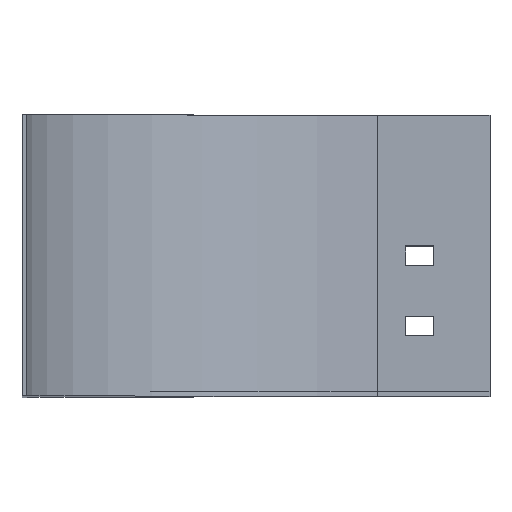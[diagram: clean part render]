
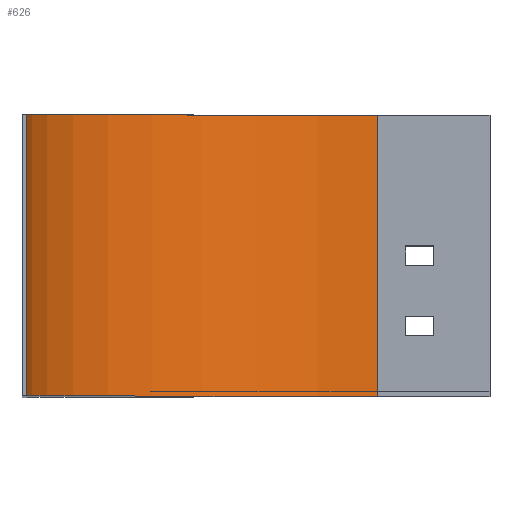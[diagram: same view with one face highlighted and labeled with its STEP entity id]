
A CAD part, top view. The second image highlights one B-rep face of the part: STEP entity #626.
In plain terms, the highlighted cylindrical face has radius 125 mm (diameter 250 mm), a partial arc.
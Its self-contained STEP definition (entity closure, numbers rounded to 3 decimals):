
#38 = LINE ( 'NONE', #882, #1617 ) ;
#76 = VERTEX_POINT ( 'NONE', #1385 ) ;
#164 = CIRCLE ( 'NONE', #1537, 125. ) ;
#260 = DIRECTION ( 'NONE',  ( 0., -1., 0. ) ) ;
#400 = AXIS2_PLACEMENT_3D ( 'NONE', #927, #670, #541 ) ;
#403 = CARTESIAN_POINT ( 'NONE',  ( 0., 100., 0. ) ) ;
#518 = DIRECTION ( 'NONE',  ( 0., -1., 0. ) ) ;
#541 = DIRECTION ( 'NONE',  ( 0., 0., -1. ) ) ;
#558 = CIRCLE ( 'NONE', #1395, 125. ) ;
#612 = VECTOR ( 'NONE', #900, 1000. ) ;
#626 = ADVANCED_FACE ( 'NONE', ( #1432 ), #1183, .F. ) ;
#670 = DIRECTION ( 'NONE',  ( 0., -1., 0. ) ) ;
#711 = EDGE_CURVE ( 'NONE', #76, #969, #38, .T. ) ;
#735 = EDGE_CURVE ( 'NONE', #969, #1391, #164, .T. ) ;
#741 = CARTESIAN_POINT ( 'NONE',  ( -125., 0., 0. ) ) ;
#743 = VERTEX_POINT ( 'NONE', #904 ) ;
#759 = CARTESIAN_POINT ( 'NONE',  ( 0., 0., 0. ) ) ;
#799 = DIRECTION ( 'NONE',  ( 0., -1., 0. ) ) ;
#882 = CARTESIAN_POINT ( 'NONE',  ( -125., 100., 0. ) ) ;
#900 = DIRECTION ( 'NONE',  ( 0., -1., 0. ) ) ;
#904 = CARTESIAN_POINT ( 'NONE',  ( 0., 100., -125. ) ) ;
#927 = CARTESIAN_POINT ( 'NONE',  ( 0., 100., 0. ) ) ;
#969 = VERTEX_POINT ( 'NONE', #741 ) ;
#984 = EDGE_CURVE ( 'NONE', #743, #1391, #1637, .T. ) ;
#1014 = CARTESIAN_POINT ( 'NONE',  ( 0., 100., -125. ) ) ;
#1051 = DIRECTION ( 'NONE',  ( 0., 0., -1. ) ) ;
#1118 = CARTESIAN_POINT ( 'NONE',  ( 0., 0., -125. ) ) ;
#1183 = CYLINDRICAL_SURFACE ( 'NONE', #400, 125. ) ;
#1217 = ORIENTED_EDGE ( 'NONE', *, *, #735, .T. ) ;
#1270 = ORIENTED_EDGE ( 'NONE', *, *, #1462, .F. ) ;
#1276 = ORIENTED_EDGE ( 'NONE', *, *, #711, .T. ) ;
#1350 = ORIENTED_EDGE ( 'NONE', *, *, #984, .F. ) ;
#1385 = CARTESIAN_POINT ( 'NONE',  ( -125., 100., 0. ) ) ;
#1391 = VERTEX_POINT ( 'NONE', #1118 ) ;
#1395 = AXIS2_PLACEMENT_3D ( 'NONE', #403, #799, #1051 ) ;
#1432 = FACE_OUTER_BOUND ( 'NONE', #1543, .T. ) ;
#1462 = EDGE_CURVE ( 'NONE', #76, #743, #558, .T. ) ;
#1537 = AXIS2_PLACEMENT_3D ( 'NONE', #759, #518, #1655 ) ;
#1543 = EDGE_LOOP ( 'NONE', ( #1217, #1350, #1270, #1276 ) ) ;
#1617 = VECTOR ( 'NONE', #260, 1000. ) ;
#1637 = LINE ( 'NONE', #1014, #612 ) ;
#1655 = DIRECTION ( 'NONE',  ( 0., 0., -1. ) ) ;
